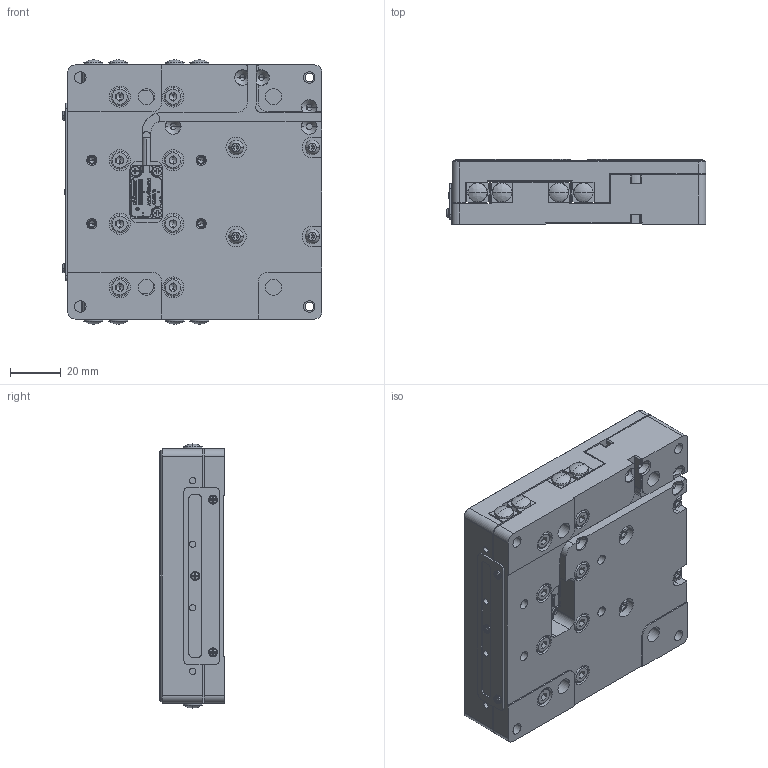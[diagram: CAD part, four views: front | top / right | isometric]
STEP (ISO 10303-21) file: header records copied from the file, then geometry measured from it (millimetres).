
FILE_DESCRIPTION (( 'STEP AP203' ), '1' );
FILE_NAME ('ls3-1050s_JC.STEP', '2023-04-26T02:56:02', ( '微软用户' ), ( '微软中国' ), 'SwSTEP 2.0', 'SolidWorks 2021', '' );
FILE_SCHEMA (( 'CONFIG_CONTROL_DESIGN' ));
Length unit declared in the file: millimetre
Products named in the file (21): VR3_100_14Z_ROLLER_GUIDE.stp; M-9693-2491-02_A_2.stp; VR3_100_14ZR1.stp; ls3-1060s_JC.stp; VR3_100_14Z_ROLLER_CAGE.stp; HT_LS3-1060S.stp; M-9677-2501-01_A_ASM.stp; hexagon socket head cap screws gb_GB_FASTENER_SCREWS_HSHCS M4X6-N; DJP_60.stp; VR3_100HX14Z_0__AF0_ASM.stp; M-9677-2500-01_A.stp; ls3-1050s_JC; hexagon socket button head screws gb_GB_SOCKET_TYPE7 M3X8-N; JM304.stp; CERAMIC.stp; JZ_LS3-1060S.stp; M-9693-2491-02_A_ASM.stp; VR3_100HX14Z_0__AF1_ASM.stp; cross recessed cheese head screws type a gb_GB_CROSS_SCREWS_TYPE135 M2.5X3-N; M2_PT-4.stp; M-9693-2491-02_A_1.stp
Assembly tree (37 placements, depth 5):
  ls3-1050s_JC
    ls3-1060s_JC.stp
      VR3_100HX14Z_0__AF0_ASM.stp
        VR3_100_14Z_ROLLER_GUIDE.stp
        VR3_100_14Z_ROLLER_CAGE.stp
        VR3_100_14ZR1.stp
      VR3_100HX14Z_0__AF1_ASM.stp
        VR3_100_14Z_ROLLER_GUIDE.stp
        VR3_100_14Z_ROLLER_CAGE.stp
        VR3_100_14ZR1.stp
      M-9677-2501-01_A_ASM.stp
        M-9693-2491-02_A_ASM.stp
          M-9693-2491-02_A_1.stp
          M-9693-2491-02_A_2.stp
        M-9677-2500-01_A.stp
      JZ_LS3-1060S.stp
      HT_LS3-1060S.stp
      CERAMIC.stp
      JM304.stp
      DJP_60.stp
      M2_PT-4.stp  x3
    hexagon socket head cap screws gb_GB_FASTENER_SCREWS_HSHCS M4X6-N  x8
    hexagon socket button head screws gb_GB_SOCKET_TYPE7 M3X8-N  x4
    cross recessed cheese head screws type a gb_GB_CROSS_SCREWS_TYPE135 M2.5X3-N  x3
Bounding box: 102.17 x 25.5 x 104 mm (x, y, z)
Volume: 222604 mm3; surface area: 100329.8 mm2
Topology: 33 solids, 34 shells, 2678 faces, 7007 edges, 4461 vertices
Faces by surface type: plane 1413, cylinder 708, cone 395, bspline 108, torus 40, sphere 14
Entity records: 69566 total; most frequent: CARTESIAN_POINT 16415, ORIENTED_EDGE 10656, DIRECTION 10244, EDGE_CURVE 5328, VERTEX_POINT 3467, AXIS2_PLACEMENT_3D 3426, LINE 3392, VECTOR 3392
